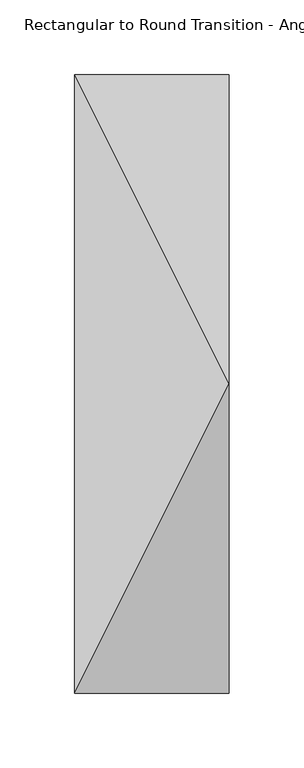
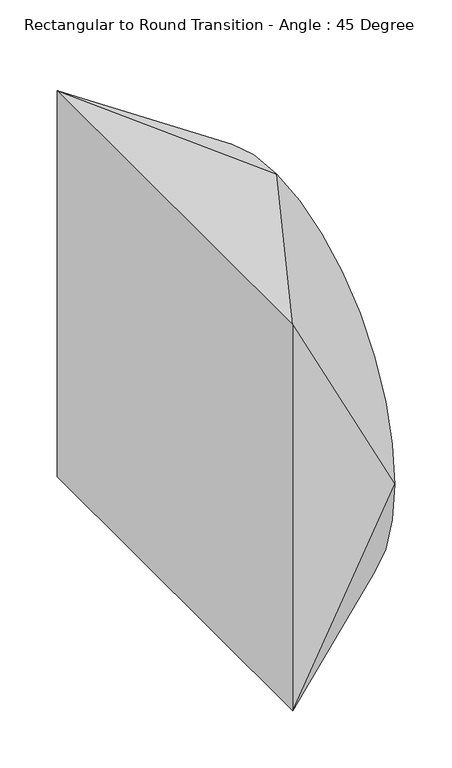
"""IFC4 building model written with IfcOpenShell, lengths in millimetres: duct fitting geometry, Rectangular to Round Transition - Angle : 45 Degree."""

from ifc_helpers import new_model, si_unit, frame, origin, place, context, project, spatial, circle_curve, source, transform, mapped, element, save
from ifc_brep_helpers import plane_surface, spline_surface, advanced_brep


def rectangular_to_round_transition_angle_45_degree_81fe0fb5(model_context):
    return source(origin(), model_context, "Body", "AdvancedBrep", [
        advanced_brep(
        [(103.1875, 0.0, 206.375), (103.1875, -206.375, 0.0), (103.1875, 0.0, -206.375), (103.1875, 206.375, 0.0), (0.0, 206.375, 206.375), (0.0, 206.375, -206.375), (0.0, -206.375, -206.375), (0.0, -206.375, 206.375)],
        [
            (0, 1, circle_curve(frame((103.1875, 0.0, 0.0), z_axis=(1.0, 0.0, 0.0), x_axis=(0.0, -1.0, 0.0)), 206.375)),
            (1, 2, circle_curve(frame((103.1875, 0.0, 0.0), z_axis=(1.0, 0.0, 0.0), x_axis=(0.0, -1.0, 0.0)), 206.375)),
            (2, 3, circle_curve(frame((103.1875, 0.0, 0.0), z_axis=(1.0, 0.0, 0.0), x_axis=(0.0, -1.0, 0.0)), 206.375)),
            (3, 0, circle_curve(frame((103.1875, 0.0, 0.0), z_axis=(1.0, 0.0, 0.0), x_axis=(0.0, -1.0, 0.0)), 206.375)),
            (4, 5),
            (5, 6),
            (6, 7),
            (7, 4),
            (3, 4),
            (4, 0),
            (3, 5),
            (2, 5),
            (2, 6),
            (1, 6),
            (1, 7),
            (0, 7),
        ],
        [
            plane_surface(frame((103.1875, 0.0, 0.0), z_axis=(1.0, 0.0, 0.0), x_axis=(0.0, 0.0, -1.0))),
            plane_surface(frame((0.0, 0.0, 0.0), z_axis=(-1.0, 0.0, 0.0), x_axis=(0.0, 0.0, -1.0))),
            spline_surface(1, 2, [[(0.0, 206.375, 206.375), (0.0, 206.375, 206.375), (0.0, 206.375, 206.375)], [(103.1875, 0.0, 206.375), (103.1875, 206.375, 206.375), (103.1875, 206.375, 0.0)]], [2, 2], [3, 3], [0.0, 1.0], [0.0, 1.0], weights=[[1.0, 0.7071067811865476, 1.0], [1.0, 0.7071067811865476, 1.0]]),
            plane_surface(frame((0.0, 206.375, 0.0), z_axis=(0.0, 1.0, 0.0), x_axis=(0.0, 0.0, -1.0))),
            spline_surface(1, 2, [[(0.0, 206.375, -206.375), (0.0, 206.375, -206.375), (0.0, 206.375, -206.375)], [(103.1875, 206.375, 0.0), (103.1875, 206.375, -206.375), (103.1875, 0.0, -206.375)]], [2, 2], [3, 3], [0.0, 1.0], [0.0, 1.0], weights=[[1.0, 0.7071067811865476, 1.0], [1.0, 0.7071067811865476, 1.0]]),
            plane_surface(frame((0.0, 0.0, -206.375), z_axis=(0.0, 0.0, -1.0), x_axis=(0.0, -1.0, 0.0))),
            spline_surface(1, 2, [[(0.0, -206.375, -206.375), (0.0, -206.375, -206.375), (0.0, -206.375, -206.375)], [(103.1875, 0.0, -206.375), (103.1875, -206.375, -206.375), (103.1875, -206.375, 0.0)]], [2, 2], [3, 3], [0.0, 1.0], [0.0, 1.0], weights=[[1.0, 0.7071067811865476, 1.0], [1.0, 0.7071067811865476, 1.0]]),
            plane_surface(frame((0.0, -206.375, 0.0), z_axis=(0.0, -1.0, 0.0), x_axis=(0.0, 0.0, 1.0))),
            spline_surface(1, 2, [[(0.0, -206.375, 206.375), (0.0, -206.375, 206.375), (0.0, -206.375, 206.375)], [(103.1875, -206.375, 0.0), (103.1875, -206.375, 206.375), (103.1875, 0.0, 206.375)]], [2, 2], [3, 3], [0.0, 1.0], [0.0, 1.0], weights=[[1.0, 0.7071067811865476, 1.0], [1.0, 0.7071067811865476, 1.0]]),
            plane_surface(frame((0.0, 0.0, 206.375), z_axis=(0.0, 0.0, 1.0), x_axis=(0.0, 1.0, 0.0))),
        ],
        [
            (0, [[1, 2, 3, 4]]),
            (1, [[5, 6, 7, 8]]),
            (2, [[9, 10, -4]]),
            (3, [[-9, 11, -5]]),
            (4, [[12, -11, -3]]),
            (5, [[-12, 13, -6]]),
            (6, [[14, -13, -2]]),
            (7, [[-14, 15, -7]]),
            (8, [[16, -15, -1]]),
            (9, [[-16, -10, -8]]),
        ],
    ),
    ])


if __name__ == "__main__":
    model = new_model("IFC4")
    model_context = context("Model", 3, world=origin())
    ifc_project = project(units=[si_unit("LENGTHUNIT", "METRE", prefix="MILLI")], contexts=[model_context])
    site = spatial("IfcSite", under=ifc_project)
    building = spatial("IfcBuilding", under=site)
    placement = place(None, origin())
    rectangular_to_round_transition_angle_45_degree_shape = rectangular_to_round_transition_angle_45_degree_81fe0fb5(model_context)
    element("IfcDuctFitting", 1, ObjectType="Rectangular to Round Transition - Angle : 45 Degree", at=placement, inside=building, context=model_context, shape_type="MappedRepresentation", body=[
        mapped(rectangular_to_round_transition_angle_45_degree_shape, transform((0.0, 0.0, 0.0), x_axis=(1.0, 0.0, 0.0), y_axis=(0.0, 1.0, 0.0), z_axis=(0.0, 0.0, 1.0))),
    ])
    save(model, "model.ifc")
